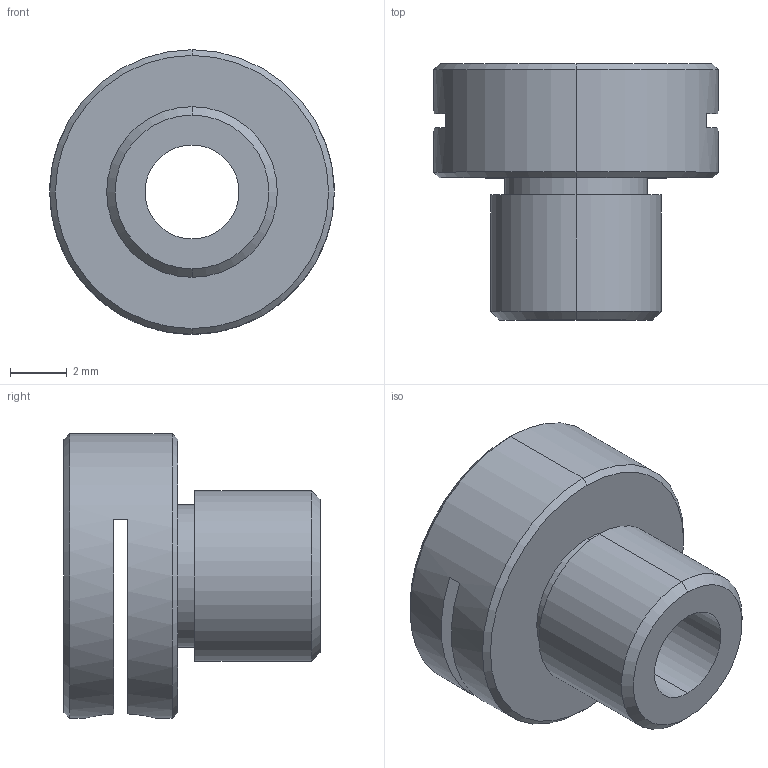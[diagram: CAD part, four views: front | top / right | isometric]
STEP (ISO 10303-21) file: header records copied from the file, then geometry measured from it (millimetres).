
FILE_DESCRIPTION (( 'STEP AP214' ), '1' );
FILE_NAME ('M4×0.25螺纹副.STEP', '2025-07-30T06:34:21', ( '' ), ( '' ), 'SwSTEP 2.0', 'SolidWorks 2024', '' );
FILE_SCHEMA (( 'AUTOMOTIVE_DESIGN' ));
Length unit declared in the file: millimetre
Products named in the file (1): M4×0.25螺纹副
Bounding box: 10 x 9 x 10 mm (x, y, z)
Volume: 336.4 mm3; surface area: 551.1 mm2
Topology: 1 solids, 1 shells, 27 faces, 63 edges, 40 vertices
Faces by surface type: cylinder 12, cone 8, plane 7
Entity records: 868 total; most frequent: CARTESIAN_POINT 199, DIRECTION 145, ORIENTED_EDGE 126, EDGE_CURVE 63, AXIS2_PLACEMENT_3D 60, VERTEX_POINT 40, EDGE_LOOP 33, CIRCLE 32
